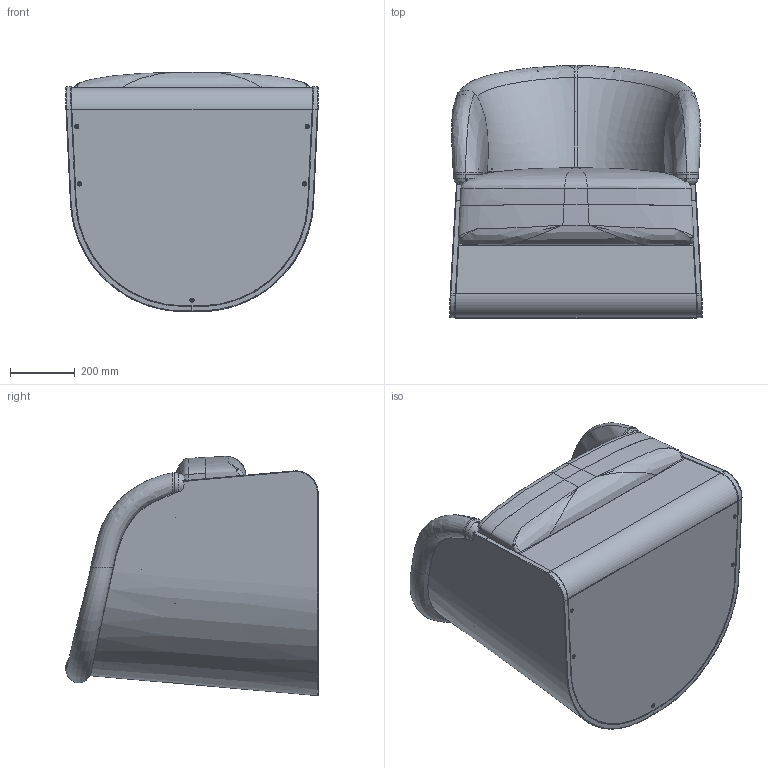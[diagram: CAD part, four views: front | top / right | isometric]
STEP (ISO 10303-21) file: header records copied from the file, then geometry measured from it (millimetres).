
FILE_DESCRIPTION (( 'STEP AP203' ), '1' );
FILE_NAME ('PCPD1672.03 - Domus 1 Seater.STEP', '2025-04-28T09:33:29', ( '' ), ( '' ), 'SwSTEP 2.0', 'SolidWorks 2025', '' );
FILE_SCHEMA (( 'CONFIG_CONTROL_DESIGN' ));
Length unit declared in the file: millimetre
Products named in the file (3): Domus Facelift Backrest - version 3_1 Seater; PCPD1672.03 - Domus 1 Seater; Domus Facelift Seat - version 3_1 Seater
Assembly tree (2 placements, depth 2):
  PCPD1672.03 - Domus 1 Seater
    Domus Facelift Seat - version 3_1 Seater
    Domus Facelift Backrest - version 3_1 Seater
Bounding box: 779.99 x 778.59 x 738.12 mm (x, y, z)
Volume: 126812283.6 mm3; surface area: 9491441.8 mm2
Topology: 37 solids, 37 shells, 913 faces, 2272 edges, 1408 vertices
Faces by surface type: cylinder 322, plane 291, bspline 200, cone 96, torus 4
Entity records: 79610 total; most frequent: CARTESIAN_POINT 59757, ORIENTED_EDGE 4316, DIRECTION 3391, EDGE_CURVE 2158, VERTEX_POINT 1408, AXIS2_PLACEMENT_3D 1264, EDGE_LOOP 1094, ADVANCED_FACE 913
